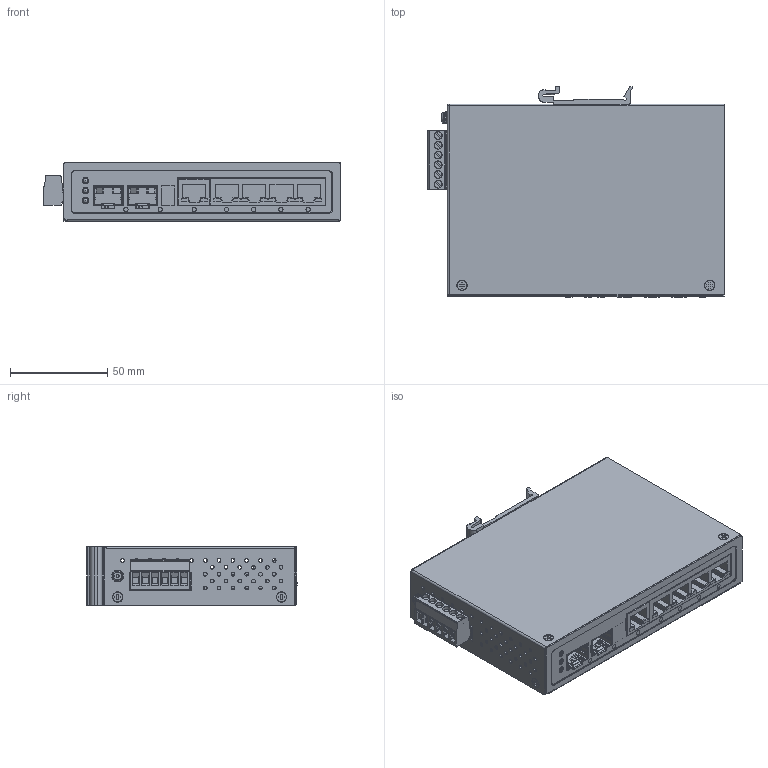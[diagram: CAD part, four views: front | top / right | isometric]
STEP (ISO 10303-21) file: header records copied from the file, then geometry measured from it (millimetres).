
FILE_DESCRIPTION(/* description */ ('STEP AP242','CAx-IF Rec.Pracs.---Representation and Presentation of Product Manufacturing Information (PMI)---4.0---2014-10-13','CAx-IF Rec.Pracs.---3D Tessellated Geometry---0.4---2014-09-14','2;1'),/* implementation_level */ '2;1');
FILE_NAME(/* name */ '685199a8d4dfb114ccc92e19',/* time_stamp */ '2025-06-17T16:37:01Z',/* author */ (''),/* organization */ (''),/* preprocessor_version */ 'ST-DEVELOPER v20',/* originating_system */ 'ONSHAPE BY PTC INC, 1.199',/* authorisation */ ' ');
FILE_SCHEMA (('AP242_MANAGED_MODEL_BASED_3D_ENGINEERING_MIM_LF { 1 0 10303 442 1 1 4 }'));
Products named in the file (195): ETH-52G-1; HOUSING; SFP-2; SFP-1; REAR_COVER; PRT0007_3; PRT0016; CONN_PRT; PRT0004; PRT0007_1; PRT0016_5; PRT0016_2; PRT0017; PRT0007; PRT0007_2; PRT0016_1; PRT0016_7; PRT0002_2; CONN; PRT0018; PRT0016_9; PRT0007_5; PRT0016_6; PRT0007_4; PRT0005; PRT0016_4; PRT0002_3; PRT0016_3; PRT0008; PRT0016_8; PRT0020; PRT0002; PRT0002_1; PRT0006
Assembly tree (194 placements, depth 2):
  ETH-52G-1
    HOUSING
    HOUSING
    HOUSING
    SFP-2
    HOUSING
    HOUSING
    SFP-2
    SFP-1
    SFP-1
    REAR_COVER
    HOUSING
    PRT0007_3
    HOUSING
    PRT0016
    SFP-1
    SFP-2
    SFP-2
    HOUSING
    CONN_PRT
    HOUSING
    HOUSING
    REAR_COVER
    HOUSING
    PRT0004
    CONN_PRT
    HOUSING
    SFP-2
    HOUSING
    HOUSING
    HOUSING
    CONN_PRT
    HOUSING
    HOUSING
    HOUSING
    PRT0007_1
    HOUSING
    CONN_PRT
    HOUSING
    HOUSING
    HOUSING
    CONN_PRT
    SFP-1
    REAR_COVER
    PRT0016_5
    HOUSING
    HOUSING
    HOUSING
    HOUSING
    HOUSING
    REAR_COVER
    HOUSING
    SFP-2
    HOUSING
    SFP-1
    HOUSING
    PRT0016_2
    HOUSING
    PRT0017
    REAR_COVER
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Bounding box: 152.14 x 107.81 x 30 mm (x, y, z)
Volume: 24122.3 mm3; surface area: 121998.9 mm2
Topology: 27 solids, 200 shells, 3746 faces, 11828 edges, 8266 vertices
Faces by surface type: plane 2255, cylinder 1327, torus 79, cone 50, sphere 33, bspline 2
Full cylindrical faces by diameter (mm): 0.609 x1, 1.4 x6, 1.5 x1, 1.9 x111, 2 x39, 2.2 x7, 2.3 x3, 2.449 x4, 2.459 x4, 2.8 x10, 2.9 x8, 3 x13, 3.2 x3, 3.5 x7, 3.78 x4, 3.783 x6, 3.99 x8, 4 x28, 4.2 x13, 5 x10, 5.5 x1
Entity records: 137107 total; most frequent: CARTESIAN_POINT 27594, DIRECTION 22176, ORIENTED_EDGE 19994, EDGE_CURVE 11210, VERTEX_POINT 8028, LINE 7554, VECTOR 7554, AXIS2_PLACEMENT_3D 7311
